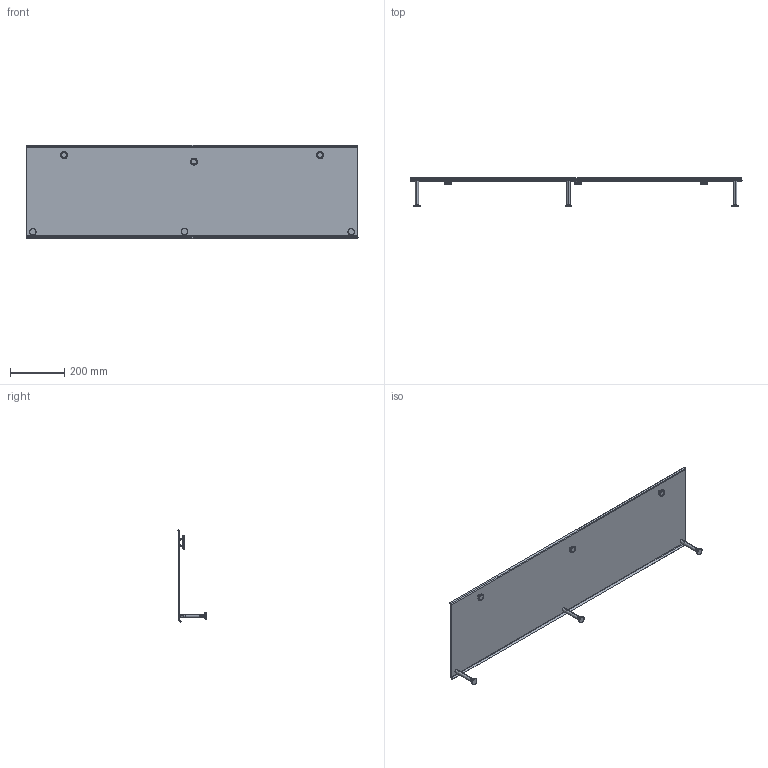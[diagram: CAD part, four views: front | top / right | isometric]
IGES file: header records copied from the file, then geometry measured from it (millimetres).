
Start section: SolidWorks IGES file using analytic representation for surfaces
Global section: file name: C:\Users\tloewy\Documents\TIP\_EVT Design\Drawings\accessories\955-0595-00_A_Stand, Platform Cover.igs; native system: SolidWorks 2016; preprocessor: SolidWorks 2016; author: tloewy; date: 160517.094813; units: millimetre
Bounding box: 1219.4 x 105.09 x 342 mm (x, y, z)
Surface area: 881824.5 mm2 (no closed solid volume)
Topology: 0 solids, 0 shells, 3248 faces, 20781 edges, 20763 vertices
Faces by surface type: bspline 1851, revolution 1397
